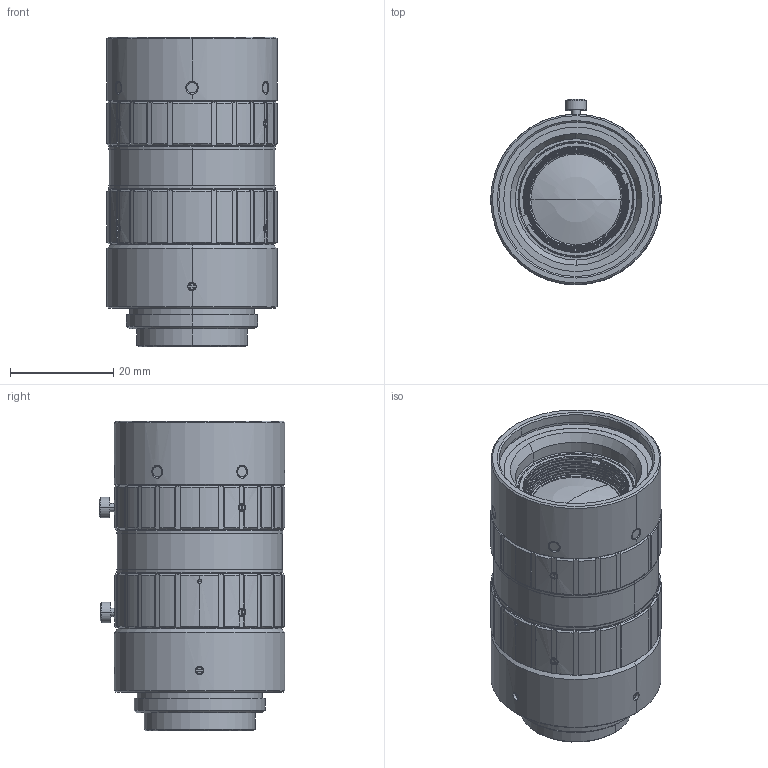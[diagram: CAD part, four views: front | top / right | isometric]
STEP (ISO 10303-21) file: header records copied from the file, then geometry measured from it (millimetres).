
FILE_DESCRIPTION(('CoCreate Modeling STEP Export'),'2;1');
FILE_NAME('HF1618-12M_3D-outline.STEP','2022-05-31T12:44:02',(''),(''),'CoCreate Modeling STEP processor for AP214 (Solid Model)','CoCreate Modeling 17.0 01-Apr-2010 (C) Parametric Technology GmbH','');
FILE_SCHEMA(('AUTOMOTIVE_DESIGN { 1 0 10303 214 1 1 1 1 }'));
Length unit declared in the file: millimetre
Products named in the file (2): HF1618-12M
Assembly tree (1 placements, depth 2):
  HF1618-12M
    HF1618-12M
Bounding box: 33 x 35.95 x 60 mm (x, y, z)
Volume: 40568 mm3; surface area: 9423.9 mm2
Topology: 1 solids, 1 shells, 439 faces, 1174 edges, 763 vertices
Faces by surface type: cylinder 178, plane 165, cone 80, torus 14, sphere 2
Entity records: 13530 total; most frequent: CARTESIAN_POINT 3136, ORIENTED_EDGE 2340, DIRECTION 1974, EDGE_CURVE 1170, VERTEX_POINT 763, AXIS2_PLACEMENT_3D 681, VECTOR 612, LINE 612
